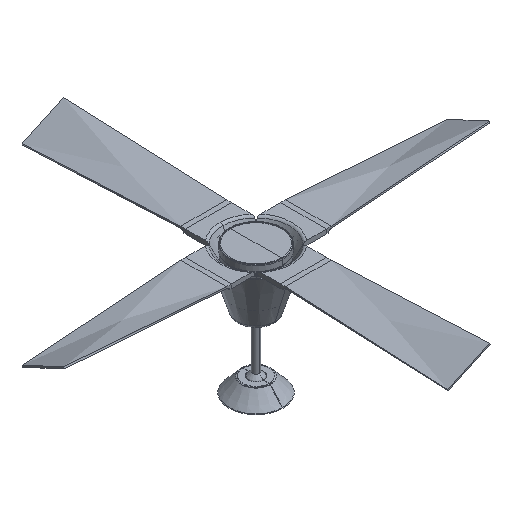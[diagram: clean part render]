
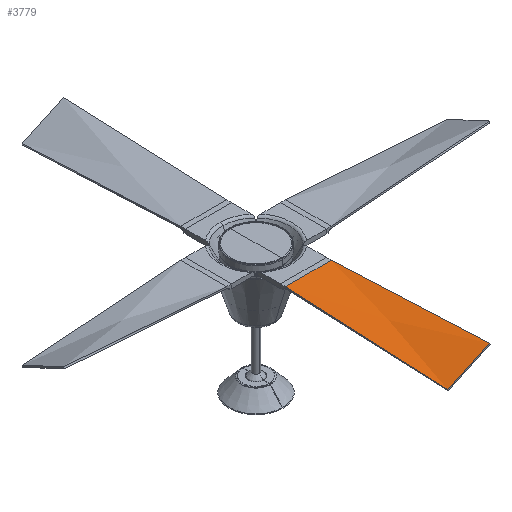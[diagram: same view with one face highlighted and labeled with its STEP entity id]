
A CAD part, isometric view. The second image highlights one B-rep face of the part: STEP entity #3779.
In plain terms, the highlighted free-form (B-spline) face has degree [1, 1] with [2, 2] control points.
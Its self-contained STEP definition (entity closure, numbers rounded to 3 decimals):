
#573=FACE_OUTER_BOUND('',#821,.T.);
#821=EDGE_LOOP('',(#2610,#2611,#2612,#2613));
#1073=LINE('',#5313,#1369);
#1076=LINE('',#5322,#1372);
#1077=LINE('',#5324,#1373);
#1078=LINE('',#5325,#1374);
#1369=VECTOR('',#4370,304.8);
#1372=VECTOR('',#4373,304.8);
#1373=VECTOR('',#4374,304.8);
#1374=VECTOR('',#4375,304.8);
#1664=VERTEX_POINT('',#5309);
#1666=VERTEX_POINT('',#5312);
#1668=VERTEX_POINT('',#5321);
#1669=VERTEX_POINT('',#5323);
#2029=EDGE_CURVE('',#1666,#1664,#1073,.T.);
#2032=EDGE_CURVE('',#1668,#1664,#1076,.T.);
#2033=EDGE_CURVE('',#1669,#1668,#1077,.T.);
#2034=EDGE_CURVE('',#1666,#1669,#1078,.T.);
#2610=ORIENTED_EDGE('',*,*,#2032,.F.);
#2611=ORIENTED_EDGE('',*,*,#2033,.F.);
#2612=ORIENTED_EDGE('',*,*,#2034,.F.);
#2613=ORIENTED_EDGE('',*,*,#2029,.T.);
#3763=B_SPLINE_SURFACE_WITH_KNOTS('',1,1,((#5317,#5318),(#5319,#5320)),
 .UNSPECIFIED.,.F.,.F.,.F.,(2,2),(2,2),(0.,1.),(0.,1.),.UNSPECIFIED.);
#3779=ADVANCED_FACE('',(#573),#3763,.T.);
#4370=DIRECTION('',(0.011,-0.998,-0.061));
#4373=DIRECTION('',(-0.906,0.,-0.423));
#4374=DIRECTION('',(-0.016,-0.998,0.06));
#4375=DIRECTION('',(1.,0.,0.));
#5309=CARTESIAN_POINT('',(-64.498,-650.,365.182));
#5312=CARTESIAN_POINT('',(-70.,-159.863,395.));
#5313=CARTESIAN_POINT('',(-70.,-159.863,395.));
#5317=CARTESIAN_POINT('Ctrl Pts',(-64.498,-650.,365.182));
#5318=CARTESIAN_POINT('Ctrl Pts',(-70.,-159.863,395.));
#5319=CARTESIAN_POINT('Ctrl Pts',(62.385,-650.,424.349));
#5320=CARTESIAN_POINT('Ctrl Pts',(70.,-159.863,395.));
#5321=CARTESIAN_POINT('',(62.385,-650.,424.349));
#5322=CARTESIAN_POINT('',(62.385,-650.,424.349));
#5323=CARTESIAN_POINT('',(70.,-159.863,395.));
#5324=CARTESIAN_POINT('',(70.,-159.863,395.));
#5325=CARTESIAN_POINT('',(-70.,-159.863,395.));
